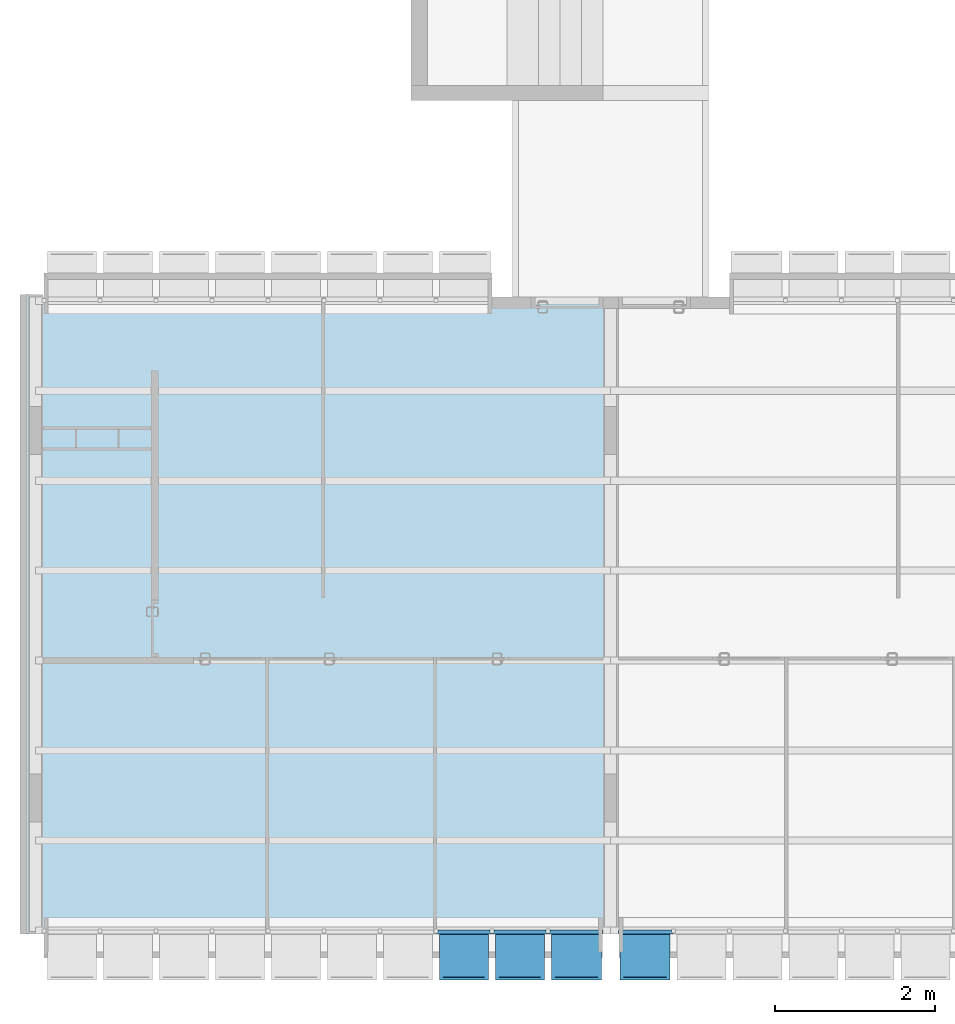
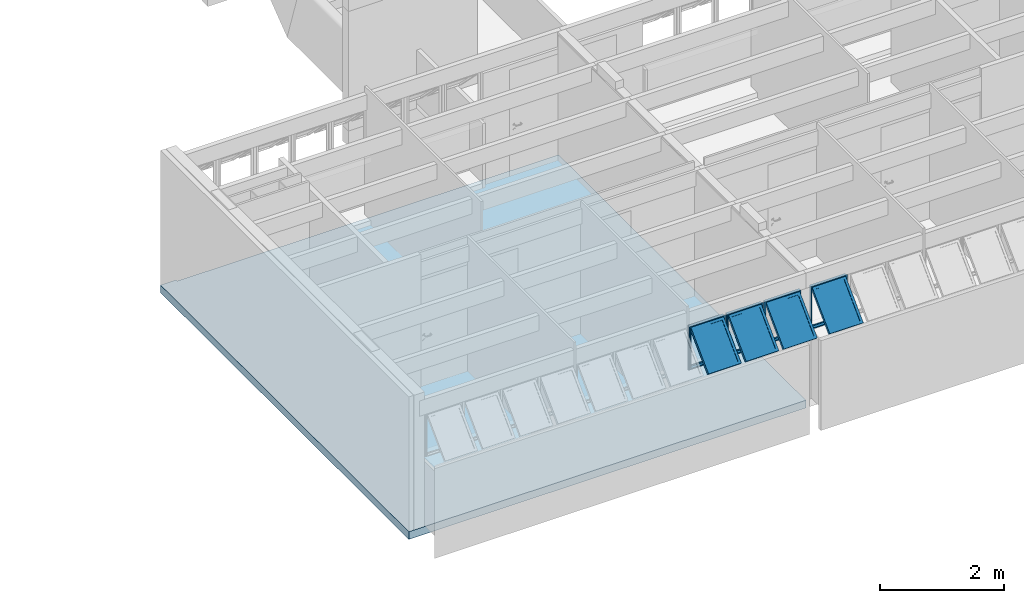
# One storey, part 5 of 40: 4 plates, 1 slab, 2 elements without a shape of their own.
"""IFC4 building model written with IfcOpenShell, lengths in millimetres."""

from ifc_helpers import new_model, entity, si_unit, converted_unit, derived_unit, direction, frame, origin_with_axes, place, context, subcontext, project, spatial, line, indexed_curve, outline, extrude, polygons, source, transform, mapped, material, layer, layer_set, layer_usage, constituent, constituent_set, type_object, element, aggregate, save


model = new_model("IFC4")

# Units and contexts
model_context = context("Model", 3, precision=0.01, world=origin_with_axes(), true_north=direction((0.0, 1.0)))
body_context = subcontext(model_context, "Body", "Model", "MODEL_VIEW")
ifc_project = project(units=[si_unit("LENGTHUNIT", "METRE", prefix="MILLI"), si_unit("AREAUNIT", "SQUARE_METRE"), si_unit("VOLUMEUNIT", "CUBIC_METRE"), converted_unit("PLANEANGLEUNIT", "DEGREE", entity("IfcPlaneAngleMeasure", 0.0174532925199), si_unit("PLANEANGLEUNIT", "RADIAN"), dimensions=[0, 0, 0, 0, 0, 0, 0]), converted_unit("TIMEUNIT", "Year", entity("IfcTimeMeasure", 31556926.0), si_unit("TIMEUNIT", "SECOND"), dimensions=[0, 0, 1, 0, 0, 0, 0]), si_unit("MASSUNIT", "GRAM", prefix="KILO"), si_unit("THERMODYNAMICTEMPERATUREUNIT", "DEGREE_CELSIUS"), si_unit("LUMINOUSINTENSITYUNIT", "LUMEN"), si_unit("ENERGYUNIT", "JOULE", prefix="MEGA"), derived_unit("THERMALCONDUCTANCEUNIT", [(si_unit("POWERUNIT", "WATT"), 1), (si_unit("LENGTHUNIT", "METRE"), -1), (si_unit("THERMODYNAMICTEMPERATUREUNIT", "KELVIN"), -1)]), derived_unit("SPECIFICHEATCAPACITYUNIT", [(si_unit("ENERGYUNIT", "JOULE"), 1), (si_unit("MASSUNIT", "GRAM", prefix="KILO"), -1), (si_unit("THERMODYNAMICTEMPERATUREUNIT", "KELVIN"), -1)]), derived_unit("MASSDENSITYUNIT", [(si_unit("MASSUNIT", "GRAM", prefix="KILO"), 1), (si_unit("VOLUMEUNIT", "CUBIC_METRE"), -1)])], contexts=[model_context])

# Site, building, storey
site_placement = place(None, origin_with_axes())
site = spatial("IfcSite", under=ifc_project, at=site_placement, Name="Local", CompositionType="ELEMENT")
building_placement = place(site_placement, origin_with_axes())
building = spatial("IfcBuilding", under=site, at=building_placement, Name="Construção", CompositionType="ELEMENT")
storey_placement = place(building_placement, origin_with_axes())
storey = spatial("IfcBuildingStorey", under=building, at=storey_placement, Name="Primeiro Pavimento", CompositionType="ELEMENT", Elevation=0.0)

# Slab
ifc_material_1 = material(Name="Concreto Armado Moldado in Loco - Estrutural")
ifc_layer = layer(ifc_material_1, 150.0, ventilated="UNKNOWN", Name="Concreto Armado Moldado in Loco - Estrutural")
ifc_layer_set = layer_set([ifc_layer], Name="Concreto Armado Moldado in Loco - Estrutural 150")
ifc_layer_usage = layer_usage(ifc_layer_set, "AXIS3", "NEGATIVE", 150.0)
slab_type = type_object("IfcSlabType", Name="Concreto Armado Moldado in Loco - Estrutural 150", PredefinedType="FLOOR")
slab_placement = place(storey_placement, frame((0.0, 300.0, 0.0), z_axis=(0.0, 0.0, 1.0), x_axis=(1.0, 0.0, 0.0)))
element("IfcSlab", 1, at=slab_placement, inside=storey, type_object=slab_type, material=ifc_layer_usage, Name="APTO1-LAJE-000", PredefinedType="FLOOR", context=body_context, shape_type="SweptSolid", body=[
    extrude(outline(indexed_curve([(0.0, 0.0), (299.999978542, 0.0), (7385.0, 0.0), (7385.0, 7964.99999866), (6160.00008404, 7964.99999866), (5900.0, 7965.0), (290.0, 7965.0), (289.999999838, 8000.00000006), (0.0, 7999.99999872)], segments=[line(1, 2, 3, 4, 5, 6, 7, 8, 9, 1)])), frame((0.0, 0.0, -150.0), z_axis=(0.0, 0.0, 1.0), x_axis=(1.0, 0.0, 0.0)), (0.0, 0.0, 1.0), 150.0),
])

# Window, plates
window_type = type_object("IfcWindowType", Name="Tipo de Parede Cortina", PartitioningType="NOTDEFINED", PredefinedType="NOTDEFINED")
window_1_placement = place(storey_placement, frame((294.999984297, 315.020977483, 1355.02054151), z_axis=(0.0, 0.0, 1.0), x_axis=(1.0, 0.0, 0.0)))
window_1 = element("IfcWindow", 2, at=window_1_placement, inside=storey, type_object=window_type, Name="APTO1-JANELA-001", PredefinedType="NOTDEFINED")
ifc_material_2 = material(Name="Alumínio")
ifc_constituent_1 = constituent(ifc_material_2, Name="Alumínio")
ifc_material_3 = material(Name="Vidro")
ifc_constituent_2 = constituent(ifc_material_3, Name="Vidro")
ifc_constituent_set_1 = constituent_set(constituents=[ifc_constituent_1, ifc_constituent_2])
plate_type_1 = type_object("IfcPlateType", Name="Painel Principal 690 x 845 x 20", PredefinedType="CURTAIN_PANEL")
shared_shape_1 = source(origin_with_axes(), body_context, "Body", "Tessellation", [
    polygons([(25.0000036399, 0.0, -40.0), (674.999997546, 0.0, -40.0), (674.999997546, 0.0, -35.0), (25.0000036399, 0.0, -35.0), (70.0000036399, 45.0, -40.0), (629.999997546, 45.0, -40.0), (629.999997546, 45.0, -35.0), (70.0000036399, 45.0, -35.0)], [[[1, 2, 3, 4]], [[1, 5, 6, 2]], [[2, 6, 7, 3]], [[4, 3, 7, 8]], [[5, 1, 4, 8]], [[6, 5, 8, 7]]], closed=True),
    polygons([(674.999997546, 0.0, -40.0), (674.999997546, 844.999891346, -40.0), (674.999997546, 844.999891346, -35.0), (674.999997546, 0.0, -35.0), (629.999997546, 45.0, -40.0), (629.999997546, 799.999891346, -40.0), (629.999997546, 799.999891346, -35.0), (629.999997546, 45.0, -35.0)], [[[1, 2, 3, 4]], [[1, 5, 6, 2]], [[2, 6, 7, 3]], [[4, 3, 7, 8]], [[5, 1, 4, 8]], [[6, 5, 8, 7]]], closed=True),
    polygons([(25.0000036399, 844.999891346, -40.0), (70.0000036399, 799.999891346, -40.0), (70.0000036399, 799.999891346, -35.0), (25.0000036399, 844.999891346, -35.0), (674.999997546, 844.999891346, -40.0), (629.999997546, 799.999891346, -40.0), (629.999997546, 799.999891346, -35.0), (674.999997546, 844.999891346, -35.0)], [[[1, 2, 3, 4]], [[1, 5, 6, 2]], [[2, 6, 7, 3]], [[4, 3, 7, 8]], [[5, 1, 4, 8]], [[6, 5, 8, 7]]], closed=True),
    polygons([(25.0000036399, 0.0, -40.0), (70.0000036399, 45.0, -40.0), (70.0000036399, 45.0, -35.0), (25.0000036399, 0.0, -35.0), (25.0000036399, 844.999891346, -40.0), (70.0000036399, 799.999891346, -40.0), (70.0000036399, 799.999891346, -35.0), (25.0000036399, 844.999891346, -35.0)], [[[1, 2, 3, 4]], [[1, 5, 6, 2]], [[2, 6, 7, 3]], [[4, 3, 7, 8]], [[5, 1, 4, 8]], [[6, 5, 8, 7]]], closed=True),
    polygons([(25.0000036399, 0.0, -35.0), (674.999997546, 0.0, -35.0), (674.999997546, 0.0, 15.0), (25.0000036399, 0.0, 15.0), (45.0000036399, 20.0, -35.0), (654.999997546, 20.0, -35.0), (654.999997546, 20.0, 15.0), (45.0000036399, 20.0, 15.0)], [[[1, 2, 3, 4]], [[1, 5, 6, 2]], [[2, 6, 7, 3]], [[4, 3, 7, 8]], [[5, 1, 4, 8]], [[6, 5, 8, 7]]], closed=True),
    polygons([(674.999997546, 0.0, -35.0), (674.999997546, 844.999891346, -35.0), (674.999997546, 844.999891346, 15.0), (674.999997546, 0.0, 15.0), (654.999997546, 20.0, -35.0), (654.999997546, 824.999891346, -35.0), (654.999997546, 824.999891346, 15.0), (654.999997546, 20.0, 15.0)], [[[1, 2, 3, 4]], [[1, 5, 6, 2]], [[2, 6, 7, 3]], [[4, 3, 7, 8]], [[5, 1, 4, 8]], [[6, 5, 8, 7]]], closed=True),
    polygons([(25.0000036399, 844.999891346, -35.0), (45.0000036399, 824.999891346, -35.0), (45.0000036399, 824.999891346, 15.0), (25.0000036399, 844.999891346, 15.0), (674.999997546, 844.999891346, -35.0), (654.999997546, 824.999891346, -35.0), (654.999997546, 824.999891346, 15.0), (674.999997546, 844.999891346, 15.0)], [[[1, 2, 3, 4]], [[1, 5, 6, 2]], [[2, 6, 7, 3]], [[4, 3, 7, 8]], [[5, 1, 4, 8]], [[6, 5, 8, 7]]], closed=True),
    polygons([(25.0000036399, 0.0, -35.0), (45.0000036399, 20.0, -35.0), (45.0000036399, 20.0, 15.0), (25.0000036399, 0.0, 15.0), (25.0000036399, 844.999891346, -35.0), (45.0000036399, 824.999891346, -35.0), (45.0000036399, 824.999891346, 15.0), (25.0000036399, 844.999891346, 15.0)], [[[1, 2, 3, 4]], [[1, 5, 6, 2]], [[2, 6, 7, 3]], [[4, 3, 7, 8]], [[5, 1, 4, 8]], [[6, 5, 8, 7]]], closed=True),
    polygons([(694.999995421, 0.0, -10.0), (694.999995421, 844.999891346, -10.0), (694.999995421, 844.999891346, 10.0), (694.999995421, 0.0, 10.0), (674.999997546, 0.0, -10.0), (674.999997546, 844.999891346, -10.0), (674.999997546, 844.999891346, 10.0), (674.999997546, 0.0, 10.0)], [[[1, 2, 3, 4]], [[1, 5, 6, 2]], [[2, 6, 7, 3]], [[4, 3, 7, 8]], [[5, 1, 4, 8]], [[6, 5, 8, 7]]], closed=True),
    polygons([(5.00000576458, 844.999891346, -10.0), (5.00000576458, 0.0, -10.0), (5.00000576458, 0.0, 10.0), (5.00000576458, 844.999891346, 10.0), (25.0000036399, 844.999891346, -10.0), (25.0000036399, 0.0, -10.0), (25.0000036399, 0.0, 10.0), (25.0000036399, 844.999891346, 10.0)], [[[1, 2, 3, 4]], [[1, 5, 6, 2]], [[2, 6, 7, 3]], [[4, 3, 7, 8]], [[5, 1, 4, 8]], [[6, 5, 8, 7]]], closed=True),
    polygons([(90.0000036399, 252.243475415, 517.045737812), (90.0000036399, 757.824747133, 11.4644660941), (90.0000036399, 796.715620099, 50.3553390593), (90.0000036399, 291.13434838, 555.936610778), (45.0000036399, 220.423670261, 548.865542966), (45.0000036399, 789.644552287, -20.3553390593), (45.0000036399, 828.535425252, 18.5355339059), (45.0000036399, 259.314543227, 587.756415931)], [[[1, 2, 3, 4]], [[1, 5, 6, 2]], [[2, 6, 7, 3]], [[4, 3, 7, 8]], [[5, 1, 4, 8]], [[6, 5, 8, 7]]], closed=True),
    polygons([(654.999997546, 220.423670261, 548.865542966), (654.999997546, 789.644552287, -20.3553390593), (654.999997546, 828.535425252, 18.5355339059), (654.999997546, 259.314543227, 587.756415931), (609.999997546, 252.243475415, 517.045737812), (609.999997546, 757.824747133, 11.4644660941), (609.999997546, 796.715620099, 50.3553390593), (609.999997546, 291.13434838, 555.936610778)], [[[1, 2, 3, 4]], [[1, 5, 6, 2]], [[2, 6, 7, 3]], [[4, 3, 7, 8]], [[5, 1, 4, 8]], [[6, 5, 8, 7]]], closed=True),
    polygons([(654.999997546, 220.423670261, 548.865542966), (609.999997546, 252.243475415, 517.045737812), (609.999997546, 291.13434838, 555.936610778), (654.999997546, 259.314543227, 587.756415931), (45.0000036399, 220.423670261, 548.865542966), (90.0000036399, 252.243475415, 517.045737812), (90.0000036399, 291.13434838, 555.936610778), (45.0000036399, 259.314543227, 587.756415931)], [[[1, 2, 3, 4]], [[1, 5, 6, 2]], [[2, 6, 7, 3]], [[4, 3, 7, 8]], [[5, 1, 4, 8]], [[6, 5, 8, 7]]], closed=True),
    polygons([(45.0000036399, 789.644552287, -20.3553390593), (90.0000036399, 757.824747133, 11.4644660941), (90.0000036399, 796.715620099, 50.3553390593), (45.0000036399, 828.535425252, 18.5355339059), (654.999997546, 789.644552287, -20.3553390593), (609.999997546, 757.824747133, 11.4644660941), (609.999997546, 796.715620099, 50.3553390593), (654.999997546, 828.535425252, 18.5355339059)], [[[1, 2, 3, 4]], [[1, 5, 6, 2]], [[2, 6, 7, 3]], [[4, 3, 7, 8]], [[5, 1, 4, 8]], [[6, 5, 8, 7]]], closed=True),
    polygons([(90.0000036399, 272.749572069, 537.551834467), (609.999997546, 272.749572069, 537.551834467), (609.999997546, 284.063280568, 548.865542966), (90.0000036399, 284.063280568, 548.865542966), (90.0000036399, 778.330843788, 31.9705627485), (609.999997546, 778.330843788, 31.9705627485), (609.999997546, 789.644552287, 43.2842712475), (90.0000036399, 789.644552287, 43.2842712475)], [[[1, 2, 3, 4]], [[1, 5, 6, 2]], [[2, 6, 7, 3]], [[4, 3, 7, 8]], [[5, 1, 4, 8]], [[6, 5, 8, 7]]], closed=True),
])
plate_1_placement = place(window_1_placement, frame((5255.0000157, 0.0, 422.499945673), z_axis=(0.0, 0.0, 1.0), x_axis=(-1.0, 0.0, 0.0)))
plate_1 = element("IfcPlate", 3, at=plate_1_placement, type_object=plate_type_1, material=ifc_constituent_set_1, Name="APTO1-Painel-Prin-020", PredefinedType="CURTAIN_PANEL", context=body_context, shape_type="MappedRepresentation", body=[
    mapped(shared_shape_1, transform((350.0, 0.0, -422.499945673), x_axis=(-1.0, 0.0, 0.0), y_axis=(0.0, 0.0, 1.0), z_axis=(0.0, 1.0, 0.0))),
])
ifc_constituent_3 = constituent(ifc_material_2, Name="Alumínio")
ifc_constituent_4 = constituent(ifc_material_3, Name="Vidro")
ifc_constituent_set_2 = constituent_set(constituents=[ifc_constituent_3, ifc_constituent_4])
plate_2_placement = place(window_1_placement, frame((5955.0000157, 0.0, 422.499945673), z_axis=(0.0, 0.0, 1.0), x_axis=(-1.0, 0.0, 0.0)))
plate_2 = element("IfcPlate", 4, at=plate_2_placement, type_object=plate_type_1, material=ifc_constituent_set_2, Name="APTO1-Painel-Prin-030", PredefinedType="CURTAIN_PANEL", context=body_context, shape_type="MappedRepresentation", body=[
    mapped(shared_shape_1, transform((350.0, 0.0, -422.499945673), x_axis=(-1.0, 0.0, 0.0), y_axis=(0.0, 0.0, 1.0), z_axis=(0.0, 1.0, 0.0))),
])
ifc_constituent_5 = constituent(ifc_material_2, Name="Alumínio")
ifc_constituent_6 = constituent(ifc_material_3, Name="Vidro")
ifc_constituent_set_3 = constituent_set(constituents=[ifc_constituent_5, ifc_constituent_6])
plate_type_2 = type_object("IfcPlateType", Name="Painel Principal 685 x 845 x 20", PredefinedType="CURTAIN_PANEL")
shared_shape_2 = source(origin_with_axes(), body_context, "Body", "Tessellation", [
    polygons([(25.0000046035, 0.0, -40.0), (690.000079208, 0.0, -40.0), (690.000079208, 0.0, -35.0), (25.0000046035, 0.0, -35.0), (70.0000046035, 45.0, -40.0), (645.000079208, 45.0, -40.0), (645.000079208, 45.0, -35.0), (70.0000046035, 45.0, -35.0)], [[[1, 2, 3, 4]], [[1, 5, 6, 2]], [[2, 6, 7, 3]], [[4, 3, 7, 8]], [[5, 1, 4, 8]], [[6, 5, 8, 7]]], closed=True),
    polygons([(690.000079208, 0.0, -40.0), (690.000079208, 844.999923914, -40.0), (690.000079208, 844.999923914, -35.0), (690.000079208, 0.0, -35.0), (645.000079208, 45.0, -40.0), (645.000079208, 799.999923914, -40.0), (645.000079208, 799.999923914, -35.0), (645.000079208, 45.0, -35.0)], [[[1, 2, 3, 4]], [[1, 5, 6, 2]], [[2, 6, 7, 3]], [[4, 3, 7, 8]], [[5, 1, 4, 8]], [[6, 5, 8, 7]]], closed=True),
    polygons([(25.0000046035, 844.999923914, -40.0), (70.0000046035, 799.999923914, -40.0), (70.0000046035, 799.999923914, -35.0), (25.0000046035, 844.999923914, -35.0), (690.000079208, 844.999923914, -40.0), (645.000079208, 799.999923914, -40.0), (645.000079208, 799.999923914, -35.0), (690.000079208, 844.999923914, -35.0)], [[[1, 2, 3, 4]], [[1, 5, 6, 2]], [[2, 6, 7, 3]], [[4, 3, 7, 8]], [[5, 1, 4, 8]], [[6, 5, 8, 7]]], closed=True),
    polygons([(25.0000046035, 0.0, -40.0), (70.0000046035, 45.0, -40.0), (70.0000046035, 45.0, -35.0), (25.0000046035, 0.0, -35.0), (25.0000046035, 844.999923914, -40.0), (70.0000046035, 799.999923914, -40.0), (70.0000046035, 799.999923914, -35.0), (25.0000046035, 844.999923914, -35.0)], [[[1, 2, 3, 4]], [[1, 5, 6, 2]], [[2, 6, 7, 3]], [[4, 3, 7, 8]], [[5, 1, 4, 8]], [[6, 5, 8, 7]]], closed=True),
    polygons([(25.0000046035, 0.0, -35.0), (690.000079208, 0.0, -35.0), (690.000079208, 0.0, 15.0), (25.0000046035, 0.0, 15.0), (45.0000046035, 20.0, -35.0), (670.000079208, 20.0, -35.0), (670.000079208, 20.0, 15.0), (45.0000046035, 20.0, 15.0)], [[[1, 2, 3, 4]], [[1, 5, 6, 2]], [[2, 6, 7, 3]], [[4, 3, 7, 8]], [[5, 1, 4, 8]], [[6, 5, 8, 7]]], closed=True),
    polygons([(690.000079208, 0.0, -35.0), (690.000079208, 844.999923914, -35.0), (690.000079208, 844.999923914, 15.0), (690.000079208, 0.0, 15.0), (670.000079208, 20.0, -35.0), (670.000079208, 824.999923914, -35.0), (670.000079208, 824.999923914, 15.0), (670.000079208, 20.0, 15.0)], [[[1, 2, 3, 4]], [[1, 5, 6, 2]], [[2, 6, 7, 3]], [[4, 3, 7, 8]], [[5, 1, 4, 8]], [[6, 5, 8, 7]]], closed=True),
    polygons([(25.0000046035, 844.999923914, -35.0), (45.0000046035, 824.999923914, -35.0), (45.0000046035, 824.999923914, 15.0), (25.0000046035, 844.999923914, 15.0), (690.000079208, 844.999923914, -35.0), (670.000079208, 824.999923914, -35.0), (670.000079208, 824.999923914, 15.0), (690.000079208, 844.999923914, 15.0)], [[[1, 2, 3, 4]], [[1, 5, 6, 2]], [[2, 6, 7, 3]], [[4, 3, 7, 8]], [[5, 1, 4, 8]], [[6, 5, 8, 7]]], closed=True),
    polygons([(25.0000046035, 0.0, -35.0), (45.0000046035, 20.0, -35.0), (45.0000046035, 20.0, 15.0), (25.0000046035, 0.0, 15.0), (25.0000046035, 844.999923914, -35.0), (45.0000046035, 824.999923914, -35.0), (45.0000046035, 824.999923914, 15.0), (25.0000046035, 844.999923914, 15.0)], [[[1, 2, 3, 4]], [[1, 5, 6, 2]], [[2, 6, 7, 3]], [[4, 3, 7, 8]], [[5, 1, 4, 8]], [[6, 5, 8, 7]]], closed=True),
    polygons([(5.00000595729, 844.999923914, -10.0), (5.00000595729, 0.0, -10.0), (5.00000595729, 0.0, 10.0), (5.00000595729, 844.999923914, 10.0), (25.0000046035, 844.999923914, -10.0), (25.0000046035, 0.0, -10.0), (25.0000046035, 0.0, 10.0), (25.0000046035, 844.999923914, 10.0)], [[[1, 2, 3, 4]], [[1, 5, 6, 2]], [[2, 6, 7, 3]], [[4, 3, 7, 8]], [[5, 1, 4, 8]], [[6, 5, 8, 7]]], closed=True),
    polygons([(90.0000046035, 252.243484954, 517.045760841), (90.0000046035, 757.824779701, 11.4644660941), (90.0000046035, 796.715652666, 50.3553390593), (90.0000046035, 291.134357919, 555.936633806), (45.0000046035, 220.4236798, 548.865565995), (45.0000046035, 789.644584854, -20.3553390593), (45.0000046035, 828.535457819, 18.5355339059), (45.0000046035, 259.314552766, 587.75643896)], [[[1, 2, 3, 4]], [[1, 5, 6, 2]], [[2, 6, 7, 3]], [[4, 3, 7, 8]], [[5, 1, 4, 8]], [[6, 5, 8, 7]]], closed=True),
    polygons([(670.000079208, 220.4236798, 548.865565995), (670.000079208, 789.644584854, -20.3553390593), (670.000079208, 828.535457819, 18.5355339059), (670.000079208, 259.314552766, 587.75643896), (625.000079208, 252.243484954, 517.045760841), (625.000079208, 757.824779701, 11.4644660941), (625.000079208, 796.715652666, 50.3553390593), (625.000079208, 291.134357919, 555.936633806)], [[[1, 2, 3, 4]], [[1, 5, 6, 2]], [[2, 6, 7, 3]], [[4, 3, 7, 8]], [[5, 1, 4, 8]], [[6, 5, 8, 7]]], closed=True),
    polygons([(670.000079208, 220.4236798, 548.865565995), (625.000079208, 252.243484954, 517.045760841), (625.000079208, 291.134357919, 555.936633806), (670.000079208, 259.314552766, 587.75643896), (45.0000046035, 220.4236798, 548.865565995), (90.0000046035, 252.243484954, 517.045760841), (90.0000046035, 291.134357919, 555.936633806), (45.0000046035, 259.314552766, 587.75643896)], [[[1, 2, 3, 4]], [[1, 5, 6, 2]], [[2, 6, 7, 3]], [[4, 3, 7, 8]], [[5, 1, 4, 8]], [[6, 5, 8, 7]]], closed=True),
    polygons([(45.0000046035, 789.644584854, -20.3553390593), (90.0000046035, 757.824779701, 11.4644660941), (90.0000046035, 796.715652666, 50.3553390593), (45.0000046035, 828.535457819, 18.5355339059), (670.000079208, 789.644584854, -20.3553390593), (625.000079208, 757.824779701, 11.4644660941), (625.000079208, 796.715652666, 50.3553390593), (670.000079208, 828.535457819, 18.5355339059)], [[[1, 2, 3, 4]], [[1, 5, 6, 2]], [[2, 6, 7, 3]], [[4, 3, 7, 8]], [[5, 1, 4, 8]], [[6, 5, 8, 7]]], closed=True),
    polygons([(90.0000046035, 272.749581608, 537.551857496), (625.000079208, 272.749581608, 537.551857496), (625.000079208, 284.063290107, 548.865565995), (90.0000046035, 284.063290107, 548.865565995), (90.0000046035, 778.330876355, 31.9705627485), (625.000079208, 778.330876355, 31.9705627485), (625.000079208, 789.644584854, 43.2842712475), (90.0000046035, 789.644584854, 43.2842712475)], [[[1, 2, 3, 4]], [[1, 5, 6, 2]], [[2, 6, 7, 3]], [[4, 3, 7, 8]], [[5, 1, 4, 8]], [[6, 5, 8, 7]]], closed=True),
])
plate_3_placement = place(window_1_placement, frame((6650.00005288, 0.0, 422.499953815), z_axis=(0.0, 0.0, 1.0), x_axis=(-1.0, 0.0, 0.0)))
plate_3 = element("IfcPlate", 5, at=plate_3_placement, type_object=plate_type_2, material=ifc_constituent_set_3, Name="APTO1-Painel-Prin-031", PredefinedType="CURTAIN_PANEL", context=body_context, shape_type="MappedRepresentation", body=[
    mapped(shared_shape_2, transform((345.000037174, 0.0, -422.499953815), x_axis=(-1.0, 0.0, 0.0), y_axis=(0.0, 0.0, 1.0), z_axis=(0.0, 1.0, 0.0))),
])
aggregate(window_1, [plate_1, plate_3, plate_2])

# Window, plate
window_2_placement = place(storey_placement, frame((8520.0, 315.020977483, 1355.02054151), z_axis=(0.0, 0.0, 1.0), x_axis=(1.0, 0.0, 0.0)))
window_2 = element("IfcWindow", 6, at=window_2_placement, inside=storey, type_object=window_type, Name="APTO2-JANELA-001", PredefinedType="NOTDEFINED")
ifc_constituent_7 = constituent(ifc_material_2, Name="Alumínio")
ifc_constituent_8 = constituent(ifc_material_3, Name="Vidro")
ifc_constituent_set_4 = constituent_set(constituents=[ifc_constituent_7, ifc_constituent_8])
shared_shape_3 = source(origin_with_axes(), body_context, "Body", "Tessellation", [
    polygons([(-25.0000046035, 0.0, -40.0), (-25.0000046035, 0.0, -35.0), (-690.000079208, 0.0, -35.0), (-690.000079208, 0.0, -40.0), (-70.0000046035, 45.0, -40.0), (-70.0000046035, 45.0, -35.0), (-645.000079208, 45.0, -35.0), (-645.000079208, 45.0, -40.0)], [[[1, 2, 3, 4]], [[5, 6, 2, 1]], [[2, 6, 7, 3]], [[4, 3, 7, 8]], [[1, 4, 8, 5]], [[8, 7, 6, 5]]], closed=True),
    polygons([(-690.000079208, 0.0, -40.0), (-690.000079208, 0.0, -35.0), (-690.000079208, 844.999923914, -35.0), (-690.000079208, 844.999923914, -40.0), (-645.000079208, 45.0, -40.0), (-645.000079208, 45.0, -35.0), (-645.000079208, 799.999923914, -35.0), (-645.000079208, 799.999923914, -40.0)], [[[1, 2, 3, 4]], [[5, 6, 2, 1]], [[2, 6, 7, 3]], [[4, 3, 7, 8]], [[1, 4, 8, 5]], [[8, 7, 6, 5]]], closed=True),
    polygons([(-25.0000046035, 844.999923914, -40.0), (-25.0000046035, 844.999923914, -35.0), (-70.0000046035, 799.999923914, -35.0), (-70.0000046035, 799.999923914, -40.0), (-690.000079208, 844.999923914, -40.0), (-690.000079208, 844.999923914, -35.0), (-645.000079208, 799.999923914, -35.0), (-645.000079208, 799.999923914, -40.0)], [[[1, 2, 3, 4]], [[5, 6, 2, 1]], [[2, 6, 7, 3]], [[4, 3, 7, 8]], [[1, 4, 8, 5]], [[8, 7, 6, 5]]], closed=True),
    polygons([(-25.0000046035, 0.0, -40.0), (-25.0000046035, 0.0, -35.0), (-70.0000046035, 45.0, -35.0), (-70.0000046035, 45.0, -40.0), (-25.0000046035, 844.999923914, -40.0), (-25.0000046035, 844.999923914, -35.0), (-70.0000046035, 799.999923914, -35.0), (-70.0000046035, 799.999923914, -40.0)], [[[1, 2, 3, 4]], [[5, 6, 2, 1]], [[2, 6, 7, 3]], [[4, 3, 7, 8]], [[1, 4, 8, 5]], [[8, 7, 6, 5]]], closed=True),
    polygons([(-25.0000046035, 0.0, -35.0), (-25.0000046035, 0.0, 15.0), (-690.000079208, 0.0, 15.0), (-690.000079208, 0.0, -35.0), (-45.0000046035, 20.0, -35.0), (-45.0000046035, 20.0, 15.0), (-670.000079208, 20.0, 15.0), (-670.000079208, 20.0, -35.0)], [[[1, 2, 3, 4]], [[5, 6, 2, 1]], [[2, 6, 7, 3]], [[4, 3, 7, 8]], [[1, 4, 8, 5]], [[8, 7, 6, 5]]], closed=True),
    polygons([(-690.000079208, 0.0, -35.0), (-690.000079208, 0.0, 15.0), (-690.000079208, 844.999923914, 15.0), (-690.000079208, 844.999923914, -35.0), (-670.000079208, 20.0, -35.0), (-670.000079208, 20.0, 15.0), (-670.000079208, 824.999923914, 15.0), (-670.000079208, 824.999923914, -35.0)], [[[1, 2, 3, 4]], [[5, 6, 2, 1]], [[2, 6, 7, 3]], [[4, 3, 7, 8]], [[1, 4, 8, 5]], [[8, 7, 6, 5]]], closed=True),
    polygons([(-25.0000046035, 844.999923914, -35.0), (-25.0000046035, 844.999923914, 15.0), (-45.0000046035, 824.999923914, 15.0), (-45.0000046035, 824.999923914, -35.0), (-690.000079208, 844.999923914, -35.0), (-690.000079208, 844.999923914, 15.0), (-670.000079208, 824.999923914, 15.0), (-670.000079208, 824.999923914, -35.0)], [[[1, 2, 3, 4]], [[5, 6, 2, 1]], [[2, 6, 7, 3]], [[4, 3, 7, 8]], [[1, 4, 8, 5]], [[8, 7, 6, 5]]], closed=True),
    polygons([(-25.0000046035, 0.0, -35.0), (-25.0000046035, 0.0, 15.0), (-45.0000046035, 20.0, 15.0), (-45.0000046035, 20.0, -35.0), (-25.0000046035, 844.999923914, -35.0), (-25.0000046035, 844.999923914, 15.0), (-45.0000046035, 824.999923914, 15.0), (-45.0000046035, 824.999923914, -35.0)], [[[1, 2, 3, 4]], [[5, 6, 2, 1]], [[2, 6, 7, 3]], [[4, 3, 7, 8]], [[1, 4, 8, 5]], [[8, 7, 6, 5]]], closed=True),
    polygons([(-5.00000595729, 844.999923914, -10.0), (-5.00000595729, 844.999923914, 10.0), (-5.00000595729, 0.0, 10.0), (-5.00000595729, 0.0, -10.0), (-25.0000046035, 844.999923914, -10.0), (-25.0000046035, 844.999923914, 10.0), (-25.0000046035, 0.0, 10.0), (-25.0000046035, 0.0, -10.0)], [[[1, 2, 3, 4]], [[5, 6, 2, 1]], [[2, 6, 7, 3]], [[4, 3, 7, 8]], [[1, 4, 8, 5]], [[8, 7, 6, 5]]], closed=True),
    polygons([(-90.0000046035, 252.243484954, 517.045760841), (-90.0000046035, 291.134357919, 555.936633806), (-90.0000046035, 796.715652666, 50.3553390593), (-90.0000046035, 757.824779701, 11.4644660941), (-45.0000046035, 220.4236798, 548.865565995), (-45.0000046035, 259.314552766, 587.75643896), (-45.0000046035, 828.535457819, 18.5355339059), (-45.0000046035, 789.644584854, -20.3553390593)], [[[1, 2, 3, 4]], [[5, 6, 2, 1]], [[2, 6, 7, 3]], [[4, 3, 7, 8]], [[1, 4, 8, 5]], [[8, 7, 6, 5]]], closed=True),
    polygons([(-670.000079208, 220.4236798, 548.865565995), (-670.000079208, 259.314552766, 587.75643896), (-670.000079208, 828.535457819, 18.5355339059), (-670.000079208, 789.644584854, -20.3553390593), (-625.000079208, 252.243484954, 517.045760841), (-625.000079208, 291.134357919, 555.936633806), (-625.000079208, 796.715652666, 50.3553390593), (-625.000079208, 757.824779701, 11.4644660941)], [[[1, 2, 3, 4]], [[5, 6, 2, 1]], [[2, 6, 7, 3]], [[4, 3, 7, 8]], [[1, 4, 8, 5]], [[8, 7, 6, 5]]], closed=True),
    polygons([(-670.000079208, 220.4236798, 548.865565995), (-670.000079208, 259.314552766, 587.75643896), (-625.000079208, 291.134357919, 555.936633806), (-625.000079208, 252.243484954, 517.045760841), (-45.0000046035, 220.4236798, 548.865565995), (-45.0000046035, 259.314552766, 587.75643896), (-90.0000046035, 291.134357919, 555.936633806), (-90.0000046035, 252.243484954, 517.045760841)], [[[1, 2, 3, 4]], [[5, 6, 2, 1]], [[2, 6, 7, 3]], [[4, 3, 7, 8]], [[1, 4, 8, 5]], [[8, 7, 6, 5]]], closed=True),
    polygons([(-45.0000046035, 789.644584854, -20.3553390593), (-45.0000046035, 828.535457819, 18.5355339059), (-90.0000046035, 796.715652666, 50.3553390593), (-90.0000046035, 757.824779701, 11.4644660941), (-670.000079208, 789.644584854, -20.3553390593), (-670.000079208, 828.535457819, 18.5355339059), (-625.000079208, 796.715652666, 50.3553390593), (-625.000079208, 757.824779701, 11.4644660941)], [[[1, 2, 3, 4]], [[5, 6, 2, 1]], [[2, 6, 7, 3]], [[4, 3, 7, 8]], [[1, 4, 8, 5]], [[8, 7, 6, 5]]], closed=True),
    polygons([(-90.0000046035, 272.749581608, 537.551857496), (-90.0000046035, 284.063290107, 548.865565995), (-625.000079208, 284.063290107, 548.865565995), (-625.000079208, 272.749581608, 537.551857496), (-90.0000046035, 778.330876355, 31.9705627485), (-90.0000046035, 789.644584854, 43.2842712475), (-625.000079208, 789.644584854, 43.2842712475), (-625.000079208, 778.330876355, 31.9705627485)], [[[1, 2, 3, 4]], [[5, 6, 2, 1]], [[2, 6, 7, 3]], [[4, 3, 7, 8]], [[1, 4, 8, 5]], [[8, 7, 6, 5]]], closed=True),
])
plate_4_placement = place(window_2_placement, frame((-695.000037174, 0.0, 422.499953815), z_axis=(0.0, 0.0, 1.0), x_axis=(1.0, 0.0, 0.0)))
plate_4 = element("IfcPlate", 7, at=plate_4_placement, type_object=plate_type_2, material=ifc_constituent_set_4, Name="APTO2-Painel-Prin-031", PredefinedType="CURTAIN_PANEL", context=body_context, shape_type="MappedRepresentation", body=[
    mapped(shared_shape_3, transform((345.000037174, 0.0, -422.499953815), x_axis=(1.0, 0.0, 0.0), y_axis=(0.0, 0.0, 1.0), z_axis=(0.0, -1.0, 0.0))),
])
aggregate(window_2, [plate_4])

save(model, "model.ifc")
